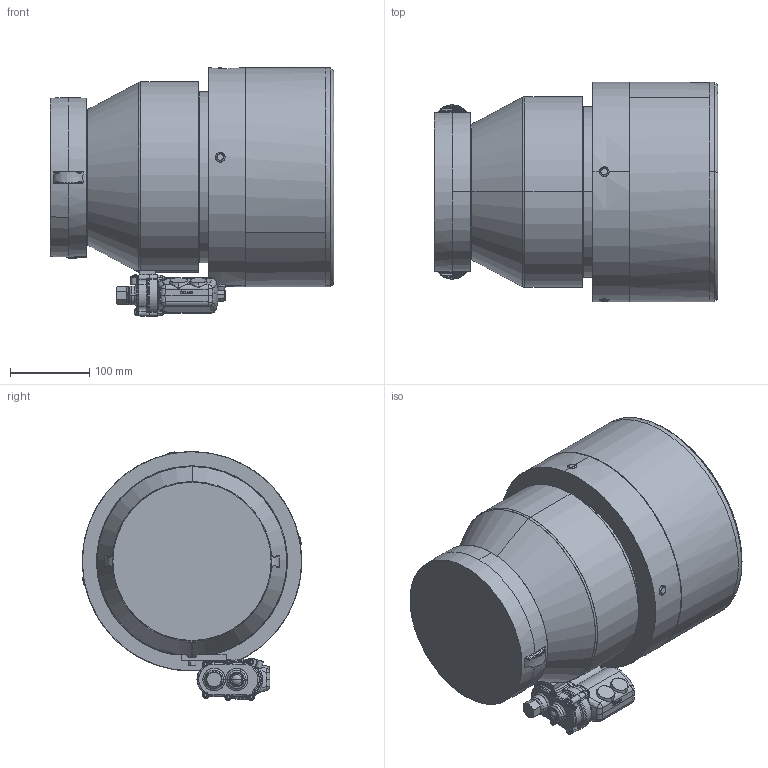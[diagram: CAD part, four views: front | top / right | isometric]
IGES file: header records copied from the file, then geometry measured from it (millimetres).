
Start section: SolidWorks IGES file using analytic representation for surfaces
Global section: file name: Z:\New Product Development\Projects\Project Folders 2015\Stage Gate\Magnum Monitor and Nozzle\Engineering\Design\Design Evolution\Design Progress\SW Part Files\CM-5000E\CM-5000E Defeatured\CM-5000E_04-20-17.IGS; native system: SolidWorks 2016; preprocessor: SolidWorks 2016; author: bgerig; date: 170420.163746; units: inch
Bounding box: 358.87 x 277.26 x 314.35 mm (x, y, z)
Surface area: 454755.3 mm2 (no closed solid volume)
Topology: 0 solids, 0 shells, 742 faces, 8901 edges, 8881 vertices
Faces by surface type: bspline 469, revolution 273
